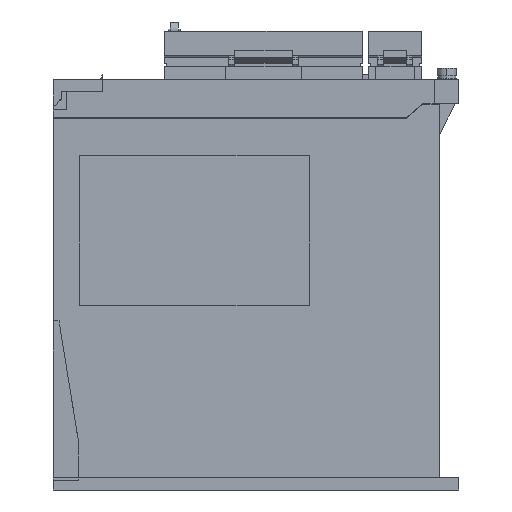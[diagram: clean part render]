
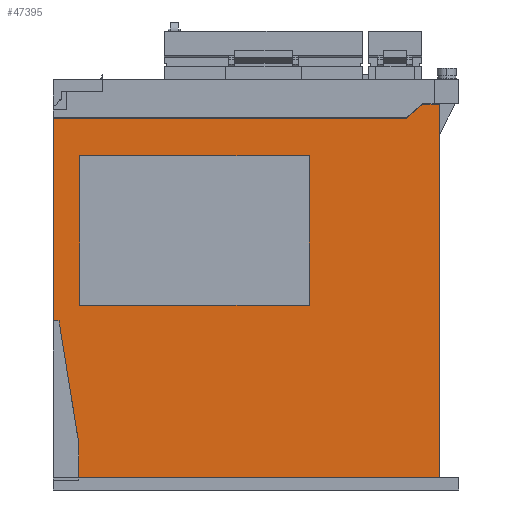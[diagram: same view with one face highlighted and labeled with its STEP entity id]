
A CAD part, left-side view. The second image highlights one B-rep face of the part: STEP entity #47395.
In plain terms, the highlighted planar face has unit normal (-1, 0, 0).
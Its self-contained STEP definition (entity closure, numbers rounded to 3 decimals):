
#10814 = VERTEX_POINT ( 'NONE', #18168 ) ;
#18168 = CARTESIAN_POINT ( 'NONE',  ( -5., 5., 154. ) ) ;
#19077 = CARTESIAN_POINT ( 'NONE',  ( -5., 5., 70. ) ) ;
#19158 = DIRECTION ( 'NONE',  ( 0., 0., -1. ) ) ;
#19159 = VECTOR ( 'NONE', #19158, 1000. ) ;
#19160 = CARTESIAN_POINT ( 'NONE',  ( -5., 5., 318.924 ) ) ;
#19161 = LINE ( 'NONE', #19160, #19159 ) ;
#19395 = CARTESIAN_POINT ( 'NONE',  ( -5., -155., 5.2 ) ) ;
#21464 = CARTESIAN_POINT ( 'NONE',  ( -5., -155., 159.8 ) ) ;
#23423 = CARTESIAN_POINT ( 'NONE',  ( -5., 2.577, 70. ) ) ;
#23501 = CARTESIAN_POINT ( 'NONE',  ( -5., -5.5, 20. ) ) ;
#23720 = DIRECTION ( 'NONE',  ( 0., 0.159, 0.987 ) ) ;
#23721 = VECTOR ( 'NONE', #23720, 1000. ) ;
#23722 = CARTESIAN_POINT ( 'NONE',  ( -5., -5.5, 20. ) ) ;
#23723 = LINE ( 'NONE', #23722, #23721 ) ;
#28546 = CARTESIAN_POINT ( 'NONE',  ( -5., -6., 138.5 ) ) ;
#28547 = DIRECTION ( 'NONE',  ( 0., 0., -1. ) ) ;
#28548 = VECTOR ( 'NONE', #28547, 1000. ) ;
#28549 = CARTESIAN_POINT ( 'NONE',  ( -5., -6., 76.5 ) ) ;
#28550 = LINE ( 'NONE', #28549, #28548 ) ;
#28551 = CARTESIAN_POINT ( 'NONE',  ( -5., -101., 76.5 ) ) ;
#28552 = CARTESIAN_POINT ( 'NONE',  ( -5., -6., 76.5 ) ) ;
#28583 = CARTESIAN_POINT ( 'NONE',  ( -5., -5.5, 20. ) ) ;
#28584 = LINE ( 'NONE', #28583, #28648 ) ;
#28585 = DIRECTION ( 'NONE',  ( 0., -1., 0. ) ) ;
#28586 = VECTOR ( 'NONE', #28585, 1000. ) ;
#28587 = CARTESIAN_POINT ( 'NONE',  ( -5., 5., 70. ) ) ;
#28588 = LINE ( 'NONE', #28587, #28586 ) ;
#28589 = DIRECTION ( 'NONE',  ( 0., -1., 0. ) ) ;
#28590 = VECTOR ( 'NONE', #28589, 1000. ) ;
#28591 = CARTESIAN_POINT ( 'NONE',  ( -5., 13.365, 154. ) ) ;
#28592 = LINE ( 'NONE', #28591, #28590 ) ;
#28617 = LINE ( 'NONE', #28684, #28683 ) ;
#28618 = CARTESIAN_POINT ( 'NONE',  ( -5., -148., 159.8 ) ) ;
#28619 = DIRECTION ( 'NONE',  ( 0., -1., 0. ) ) ;
#28620 = VECTOR ( 'NONE', #28619, 1000. ) ;
#28621 = CARTESIAN_POINT ( 'NONE',  ( -5., -153., 159.8 ) ) ;
#28622 = LINE ( 'NONE', #28621, #28620 ) ;
#28623 = DIRECTION ( 'NONE',  ( 0., 0., 1. ) ) ;
#28624 = VECTOR ( 'NONE', #28623, 1000. ) ;
#28625 = CARTESIAN_POINT ( 'NONE',  ( -5., -101., 76.5 ) ) ;
#28626 = LINE ( 'NONE', #28625, #28624 ) ;
#28627 = CARTESIAN_POINT ( 'NONE',  ( -5., -101., 138.5 ) ) ;
#28628 = DIRECTION ( 'NONE',  ( 0., 1., 0. ) ) ;
#28629 = VECTOR ( 'NONE', #28628, 1000. ) ;
#28630 = CARTESIAN_POINT ( 'NONE',  ( -5., -6., 138.5 ) ) ;
#28631 = LINE ( 'NONE', #28630, #28629 ) ;
#28642 = DIRECTION ( 'NONE',  ( 0., -1., 0. ) ) ;
#28643 = VECTOR ( 'NONE', #28642, 1000. ) ;
#28644 = CARTESIAN_POINT ( 'NONE',  ( -5., -5.5, 5.2 ) ) ;
#28645 = LINE ( 'NONE', #28644, #28643 ) ;
#28646 = CARTESIAN_POINT ( 'NONE',  ( -5., -5.5, 5.2 ) ) ;
#28647 = DIRECTION ( 'NONE',  ( 0., 0., -1. ) ) ;
#28648 = VECTOR ( 'NONE', #28647, 1000. ) ;
#28658 = DIRECTION ( 'NONE',  ( 0., -1., 0. ) ) ;
#28659 = VECTOR ( 'NONE', #28658, 1000. ) ;
#28660 = CARTESIAN_POINT ( 'NONE',  ( -5., -6., 76.5 ) ) ;
#28661 = LINE ( 'NONE', #28660, #28659 ) ;
#28662 = DIRECTION ( 'NONE',  ( 0., 1., 0. ) ) ;
#28663 = DIRECTION ( 'NONE',  ( 1., 0., 0. ) ) ;
#28664 = CARTESIAN_POINT ( 'NONE',  ( -5., 5., 318.924 ) ) ;
#28665 = AXIS2_PLACEMENT_3D ( 'NONE', #28664, #28663, #28662 ) ;
#28666 = PLANE ( 'NONE',  #28665 ) ;
#28667 = FACE_OUTER_BOUND ( 'NONE', #47380, .T. ) ;
#28668 = FACE_BOUND ( 'NONE', #47396, .T. ) ;
#28681 = CARTESIAN_POINT ( 'NONE',  ( -5., -141.328, 154. ) ) ;
#28682 = DIRECTION ( 'NONE',  ( 0., -0.755, 0.656 ) ) ;
#28683 = VECTOR ( 'NONE', #28682, 1000. ) ;
#28684 = CARTESIAN_POINT ( 'NONE',  ( -5., -141.328, 154. ) ) ;
#28691 = VERTEX_POINT ( 'NONE', #19077 ) ;
#29205 = EDGE_CURVE ( 'NONE', #10814, #28691, #19161, .T. ) ;
#33891 = LINE ( 'NONE', #33952, #33951 ) ;
#33950 = DIRECTION ( 'NONE',  ( 0., 0., -1. ) ) ;
#33951 = VECTOR ( 'NONE', #33950, 1000. ) ;
#33952 = CARTESIAN_POINT ( 'NONE',  ( -5., -155., 318.924 ) ) ;
#35690 = VERTEX_POINT ( 'NONE', #19395 ) ;
#43321 = VERTEX_POINT ( 'NONE', #21464 ) ;
#44436 = VERTEX_POINT ( 'NONE', #23423 ) ;
#44469 = VERTEX_POINT ( 'NONE', #23501 ) ;
#44627 = EDGE_CURVE ( 'NONE', #44469, #44436, #23723, .T. ) ;
#47316 = VERTEX_POINT ( 'NONE', #28552 ) ;
#47317 = VERTEX_POINT ( 'NONE', #28551 ) ;
#47318 = ORIENTED_EDGE ( 'NONE', *, *, #47319, .F. ) ;
#47319 = EDGE_CURVE ( 'NONE', #47320, #47316, #28550, .T. ) ;
#47320 = VERTEX_POINT ( 'NONE', #28546 ) ;
#47363 = EDGE_CURVE ( 'NONE', #10814, #47387, #28592, .T. ) ;
#47364 = ORIENTED_EDGE ( 'NONE', *, *, #29205, .T. ) ;
#47365 = ORIENTED_EDGE ( 'NONE', *, *, #47366, .T. ) ;
#47366 = EDGE_CURVE ( 'NONE', #28691, #44436, #28588, .T. ) ;
#47367 = ORIENTED_EDGE ( 'NONE', *, *, #44627, .F. ) ;
#47368 = ORIENTED_EDGE ( 'NONE', *, *, #47369, .T. ) ;
#47369 = EDGE_CURVE ( 'NONE', #44469, #47370, #28584, .T. ) ;
#47370 = VERTEX_POINT ( 'NONE', #28646 ) ;
#47371 = ORIENTED_EDGE ( 'NONE', *, *, #47372, .T. ) ;
#47372 = EDGE_CURVE ( 'NONE', #47370, #35690, #28645, .T. ) ;
#47375 = ORIENTED_EDGE ( 'NONE', *, *, #47376, .F. ) ;
#47376 = EDGE_CURVE ( 'NONE', #47377, #47320, #28631, .T. ) ;
#47377 = VERTEX_POINT ( 'NONE', #28627 ) ;
#47378 = ORIENTED_EDGE ( 'NONE', *, *, #47379, .F. ) ;
#47379 = EDGE_CURVE ( 'NONE', #47317, #47377, #28626, .T. ) ;
#47380 = EDGE_LOOP ( 'NONE', ( #47381, #47382, #47385, #47388, #47364, #47365, #47367, #47368, #47371 ) ) ;
#47381 = ORIENTED_EDGE ( 'NONE', *, *, #50871, .F. ) ;
#47382 = ORIENTED_EDGE ( 'NONE', *, *, #47383, .F. ) ;
#47383 = EDGE_CURVE ( 'NONE', #47384, #43321, #28622, .T. ) ;
#47384 = VERTEX_POINT ( 'NONE', #28618 ) ;
#47385 = ORIENTED_EDGE ( 'NONE', *, *, #47386, .F. ) ;
#47386 = EDGE_CURVE ( 'NONE', #47387, #47384, #28617, .T. ) ;
#47387 = VERTEX_POINT ( 'NONE', #28681 ) ;
#47388 = ORIENTED_EDGE ( 'NONE', *, *, #47363, .F. ) ;
#47395 = ADVANCED_FACE ( 'NONE', ( #28668, #28667 ), #28666, .F. ) ;
#47396 = EDGE_LOOP ( 'NONE', ( #47397, #47318, #47375, #47378 ) ) ;
#47397 = ORIENTED_EDGE ( 'NONE', *, *, #47398, .F. ) ;
#47398 = EDGE_CURVE ( 'NONE', #47316, #47317, #28661, .T. ) ;
#50871 = EDGE_CURVE ( 'NONE', #43321, #35690, #33891, .T. ) ;
